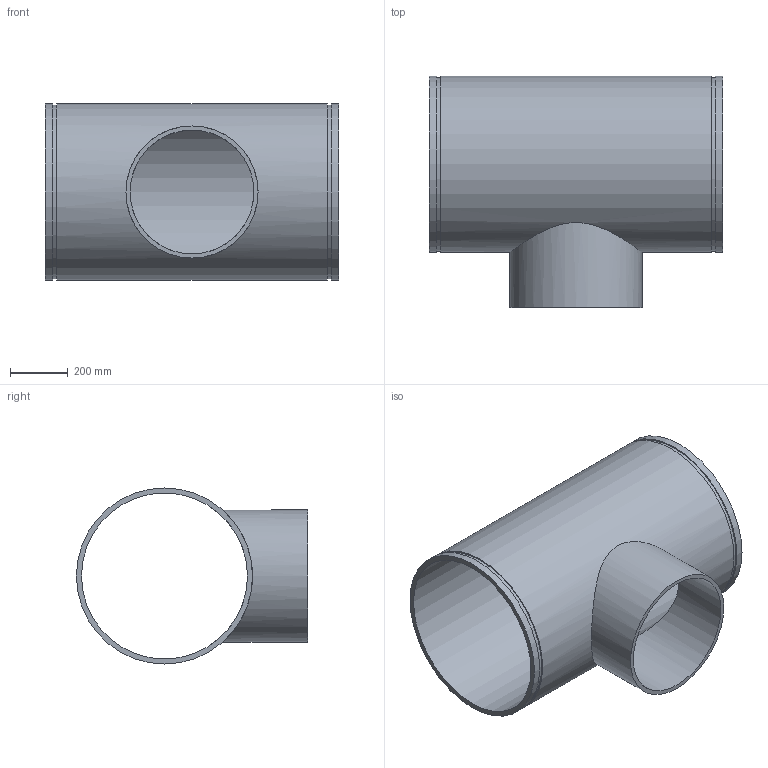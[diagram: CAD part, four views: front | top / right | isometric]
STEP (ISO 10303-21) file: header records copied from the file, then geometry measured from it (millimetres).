
FILE_DESCRIPTION(/* description */ ('VIC REDUCING TEE No 29T FFT (OGSxMPT)','CAx-IF Rec.Pracs.---Representation and Presentation of Product Manufacturing Information (PMI)---4.0---2014-10-13'),/* implementation_level */ '2;1');
FILE_NAME(/* name */ 'C:\Users\kkamble\AppData\Roaming\Autodesk\ApplicationPlugins\Back Up\Victaulic_IPS_Tee Reducing_No 29T FFT (OGSxMPT)\Victaulic_IPS_Tee Reducing_No 29T FFT (OGSxMPT)_24.0x18.0 (600x450).stp',/* time_stamp */ '2020-09-16T22:40:49+05:00',/* author */ ('CORINNE GRAY'),/* organization */ ('Victaulic'),/* preprocessor_version */ 'ST-DEVELOPER v17.2',/* originating_system */ 'Autodesk Inventor 2019',/* authorisation */ '');
FILE_SCHEMA (('AP242_MANAGED_MODEL_BASED_3D_ENGINEERING_MIM_LF { 1 0 10303 442 1 1 4 }'));
Length unit declared in the file: inch
Products named in the file (1): 29 FFT-24.0x18.0
Bounding box: 1016 x 800.1 x 609.6 mm (x, y, z)
Volume: 34710781 mm3; surface area: 4246107 mm2
Topology: 1 solids, 1 shells, 15 faces, 32 edges, 24 vertices
Faces by surface type: cylinder 8, plane 7
Full cylindrical faces by diameter (mm): 428.6 x1, 457.2 x1, 574.7 x1, 600.862 x2, 609.6 x3
Entity records: 789 total; most frequent: CARTESIAN_POINT 301, DIRECTION 106, ORIENTED_EDGE 64, AXIS2_PLACEMENT_3D 49, EDGE_CURVE 32, EDGE_LOOP 24, VERTEX_POINT 24, CIRCLE 20
